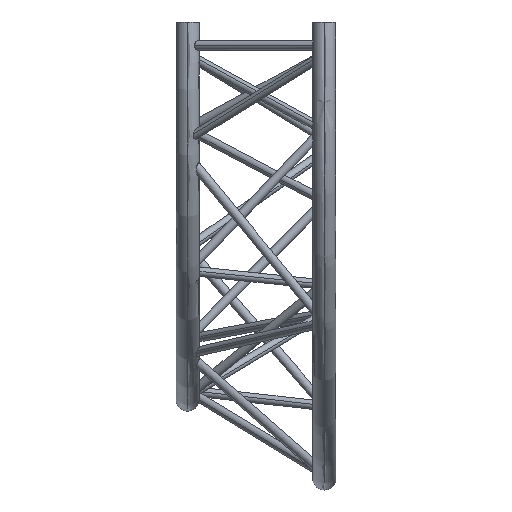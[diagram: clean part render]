
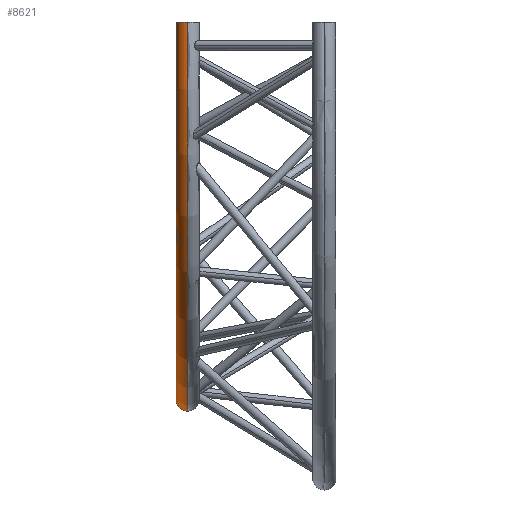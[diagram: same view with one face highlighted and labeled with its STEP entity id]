
A CAD part, left-side view. The second image highlights one B-rep face of the part: STEP entity #8621.
In plain terms, the highlighted toroidal (fillet/blend) face has major radius 806.5 mm and minor radius 25 mm.
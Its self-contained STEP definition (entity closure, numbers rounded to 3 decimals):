
#267 = VERTEX_POINT ( 'NONE', #1193 ) ;
#1193 = CARTESIAN_POINT ( 'NONE',  ( -831.5, 194.567, 0. ) ) ;
#3739 = DIRECTION ( 'NONE',  ( 0., 0., 1. ) ) ;
#3740 = DIRECTION ( 'NONE',  ( -1., 0., 0. ) ) ;
#3741 = AXIS2_PLACEMENT_3D ( 'NONE', #3746, #3740, #3739 ) ;
#3742 = CIRCLE ( 'NONE', #3741, 25. ) ;
#3746 = CARTESIAN_POINT ( 'NONE',  ( 0., 194.567, -806.5 ) ) ;
#3775 = DIRECTION ( 'NONE',  ( -1., 0., 0. ) ) ;
#3776 = DIRECTION ( 'NONE',  ( 0., 0., -1. ) ) ;
#3777 = CARTESIAN_POINT ( 'NONE',  ( -806.5, 194.567, 0. ) ) ;
#3778 = AXIS2_PLACEMENT_3D ( 'NONE', #3777, #3776, #3775 ) ;
#3779 = CIRCLE ( 'NONE', #3778, 25. ) ;
#4174 = DIRECTION ( 'NONE',  ( 0., 0., -1. ) ) ;
#4175 = DIRECTION ( 'NONE',  ( 0., -1., 0. ) ) ;
#4176 = AXIS2_PLACEMENT_3D ( 'NONE', #4177, #4175, #4174 ) ;
#4177 = CARTESIAN_POINT ( 'NONE',  ( 0., 194.567, 0. ) ) ;
#4178 = TOROIDAL_SURFACE ( 'NONE', #4176, 806.5, 25. ) ;
#4179 = FACE_OUTER_BOUND ( 'NONE', #8622, .T. ) ;
#4949 = CARTESIAN_POINT ( 'NONE',  ( 0., 194.567, -831.5 ) ) ;
#4974 = CARTESIAN_POINT ( 'NONE',  ( 0., 194.567, -781.5 ) ) ;
#8156 = DIRECTION ( 'NONE',  ( 0., 0., -1. ) ) ;
#8157 = DIRECTION ( 'NONE',  ( 0., -1., 0. ) ) ;
#8158 = CARTESIAN_POINT ( 'NONE',  ( 0., 194.567, 0. ) ) ;
#8159 = AXIS2_PLACEMENT_3D ( 'NONE', #8158, #8157, #8156 ) ;
#8160 = CIRCLE ( 'NONE', #8159, 781.5 ) ;
#8161 = DIRECTION ( 'NONE',  ( 0., 0., -1. ) ) ;
#8162 = DIRECTION ( 'NONE',  ( 0., -1., 0. ) ) ;
#8163 = CARTESIAN_POINT ( 'NONE',  ( 0., 194.567, 0. ) ) ;
#8164 = AXIS2_PLACEMENT_3D ( 'NONE', #8163, #8162, #8161 ) ;
#8165 = CIRCLE ( 'NONE', #8164, 831.5 ) ;
#8310 = CARTESIAN_POINT ( 'NONE',  ( -781.5, 194.567, 0. ) ) ;
#8522 = EDGE_CURVE ( 'NONE', #8817, #8812, #3742, .T. ) ;
#8534 = ORIENTED_EDGE ( 'NONE', *, *, #8522, .T. ) ;
#8546 = EDGE_CURVE ( 'NONE', #267, #9151, #3779, .T. ) ;
#8548 = ORIENTED_EDGE ( 'NONE', *, *, #9133, .F. ) ;
#8549 = ORIENTED_EDGE ( 'NONE', *, *, #8546, .T. ) ;
#8556 = ORIENTED_EDGE ( 'NONE', *, *, #9139, .T. ) ;
#8621 = ADVANCED_FACE ( 'NONE', ( #4179 ), #4178, .T. ) ;
#8622 = EDGE_LOOP ( 'NONE', ( #8548, #8549, #8556, #8534 ) ) ;
#8812 = VERTEX_POINT ( 'NONE', #4949 ) ;
#8817 = VERTEX_POINT ( 'NONE', #4974 ) ;
#9133 = EDGE_CURVE ( 'NONE', #267, #8812, #8165, .T. ) ;
#9139 = EDGE_CURVE ( 'NONE', #9151, #8817, #8160, .T. ) ;
#9151 = VERTEX_POINT ( 'NONE', #8310 ) ;
